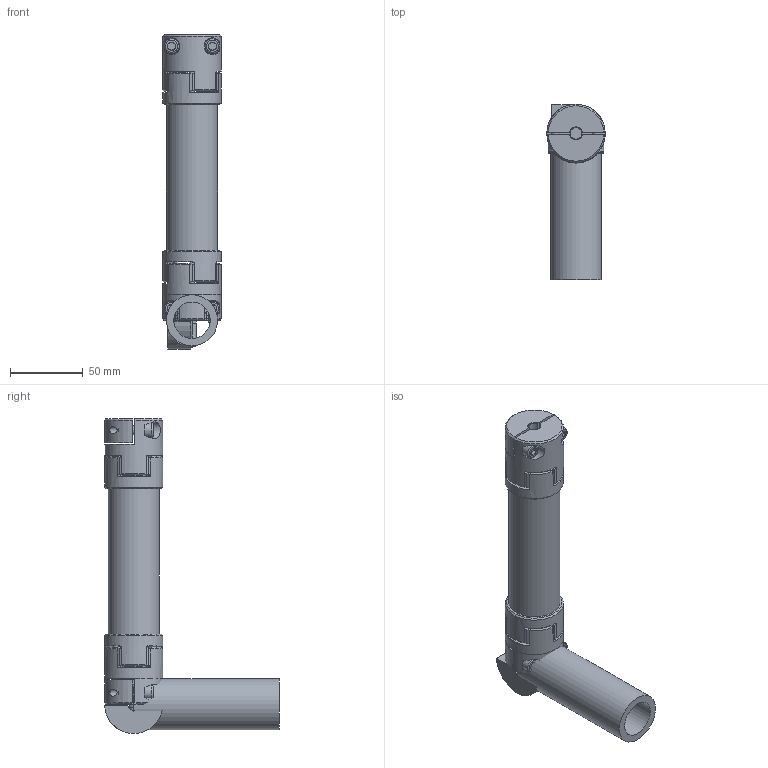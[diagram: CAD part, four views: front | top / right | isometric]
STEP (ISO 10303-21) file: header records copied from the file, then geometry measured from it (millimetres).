
FILE_DESCRIPTION( ( 'Unknown' ), '1' );
FILE_NAME( 'K:/Konstruktion/DRE/DRE19.stp', 'Unknown', ( 'Unknown' ), ( 'Unknown' ), 'XStep 1.0', 'Unknown', ' ' );
FILE_SCHEMA( ( 'automotive_design' ) );
Length unit declared in the file: millimetre
Products named in the file (7): Assem1; KBE 2H - 19_Nabe; KBE 2H - 19_Klemme; Zahnkranz_19; ISO EN DIN 4762 M6x18; R35; Aufnahme R35
Bounding box: 40 x 120 x 216 mm (x, y, z)
Volume: 273358.9 mm3; surface area: 106226 mm2
Topology: 19 solids, 19 shells, 667 faces, 1538 edges, 959 vertices
Faces by surface type: plane 208, cone 203, cylinder 192, torus 64
Full cylindrical faces by diameter (mm): 3 x18, 4.917 x6, 5 x5, 6 x10, 6.5 x6, 8 x3, 10 x5, 18 x6, 25 x5, 35 x2, 40 x6
Entity records: 6526 total; most frequent: CARTESIAN_POINT 1737, DIRECTION 992, ORIENTED_EDGE 894, EDGE_CURVE 447, AXIS2_PLACEMENT_3D 442, VERTEX_POINT 299, EDGE_LOOP 266, FACE_OUTER_BOUND 235
